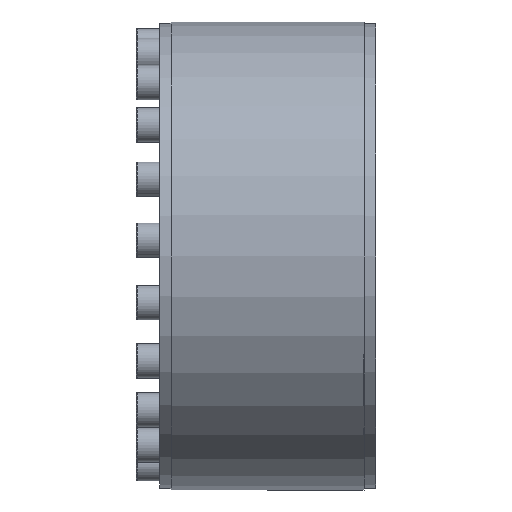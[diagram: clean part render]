
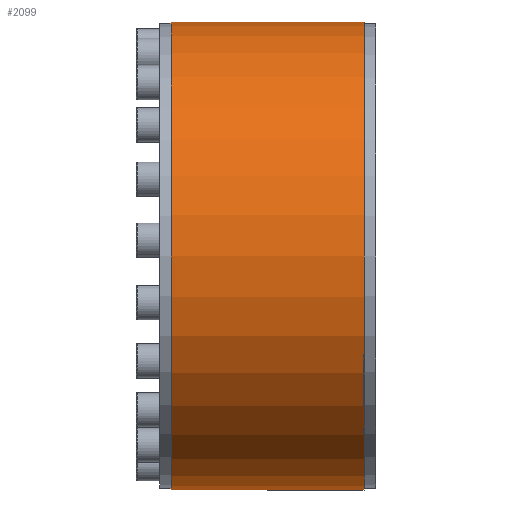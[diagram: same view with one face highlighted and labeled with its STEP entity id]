
A CAD part, left-side view. The second image highlights one B-rep face of the part: STEP entity #2099.
In plain terms, the highlighted cylindrical face has radius 162.5 mm (diameter 325 mm), a partial arc.
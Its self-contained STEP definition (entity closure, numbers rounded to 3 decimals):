
#90 = VECTOR ( 'NONE', #5682, 1000. ) ;
#345 = CARTESIAN_POINT ( 'NONE',  ( 0., 0., 0. ) ) ;
#665 = CIRCLE ( 'NONE', #2295, 162.5 ) ;
#1048 = EDGE_LOOP ( 'NONE', ( #5118, #7360, #5861, #1289 ) ) ;
#1073 = CARTESIAN_POINT ( 'NONE',  ( 0., 67., 0. ) ) ;
#1289 = ORIENTED_EDGE ( 'NONE', *, *, #1385, .F. ) ;
#1320 = VERTEX_POINT ( 'NONE', #4851 ) ;
#1385 = EDGE_CURVE ( 'NONE', #2790, #5758, #5690, .T. ) ;
#1486 = LINE ( 'NONE', #4141, #2727 ) ;
#2094 = CARTESIAN_POINT ( 'NONE',  ( 0., -67., 162.5 ) ) ;
#2099 = ADVANCED_FACE ( 'NONE', ( #4214 ), #6875, .T. ) ;
#2157 = CARTESIAN_POINT ( 'NONE',  ( 0., -67., 0. ) ) ;
#2295 = AXIS2_PLACEMENT_3D ( 'NONE', #1073, #3471, #6389 ) ;
#2343 = LINE ( 'NONE', #6684, #90 ) ;
#2406 = DIRECTION ( 'NONE',  ( 0., -1., 0. ) ) ;
#2727 = VECTOR ( 'NONE', #2406, 1000. ) ;
#2790 = VERTEX_POINT ( 'NONE', #2094 ) ;
#2828 = DIRECTION ( 'NONE',  ( 0., -1., 0. ) ) ;
#2912 = EDGE_CURVE ( 'NONE', #1320, #5758, #1486, .T. ) ;
#3162 = DIRECTION ( 'NONE',  ( 0., 0., -1. ) ) ;
#3471 = DIRECTION ( 'NONE',  ( 0., -1., 0. ) ) ;
#3723 = CARTESIAN_POINT ( 'NONE',  ( 0., 67., 162.5 ) ) ;
#3964 = DIRECTION ( 'NONE',  ( 0., 0., -1. ) ) ;
#4141 = CARTESIAN_POINT ( 'NONE',  ( 0., 0., -162.5 ) ) ;
#4179 = CARTESIAN_POINT ( 'NONE',  ( 0., -67., -162.5 ) ) ;
#4214 = FACE_OUTER_BOUND ( 'NONE', #1048, .T. ) ;
#4605 = EDGE_CURVE ( 'NONE', #7007, #2790, #2343, .T. ) ;
#4665 = AXIS2_PLACEMENT_3D ( 'NONE', #345, #5562, #3162 ) ;
#4851 = CARTESIAN_POINT ( 'NONE',  ( 0., 67., -162.5 ) ) ;
#5118 = ORIENTED_EDGE ( 'NONE', *, *, #4605, .F. ) ;
#5562 = DIRECTION ( 'NONE',  ( 0., -1., 0. ) ) ;
#5682 = DIRECTION ( 'NONE',  ( 0., -1., 0. ) ) ;
#5690 = CIRCLE ( 'NONE', #7457, 162.5 ) ;
#5758 = VERTEX_POINT ( 'NONE', #4179 ) ;
#5861 = ORIENTED_EDGE ( 'NONE', *, *, #2912, .T. ) ;
#6389 = DIRECTION ( 'NONE',  ( 0., 0., -1. ) ) ;
#6684 = CARTESIAN_POINT ( 'NONE',  ( 0., 0., 162.5 ) ) ;
#6875 = CYLINDRICAL_SURFACE ( 'NONE', #4665, 162.5 ) ;
#7007 = VERTEX_POINT ( 'NONE', #3723 ) ;
#7249 = EDGE_CURVE ( 'NONE', #7007, #1320, #665, .T. ) ;
#7360 = ORIENTED_EDGE ( 'NONE', *, *, #7249, .T. ) ;
#7457 = AXIS2_PLACEMENT_3D ( 'NONE', #2157, #2828, #3964 ) ;
